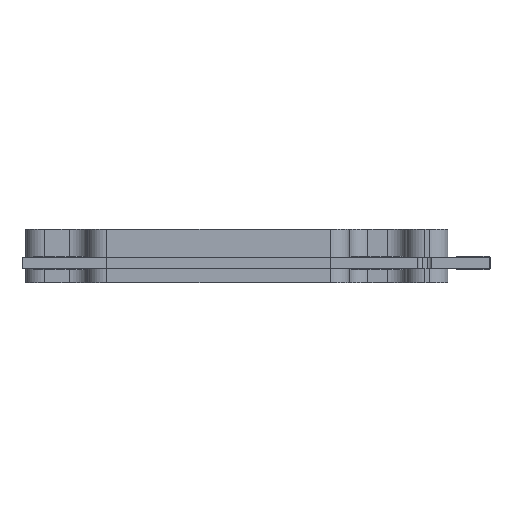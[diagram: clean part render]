
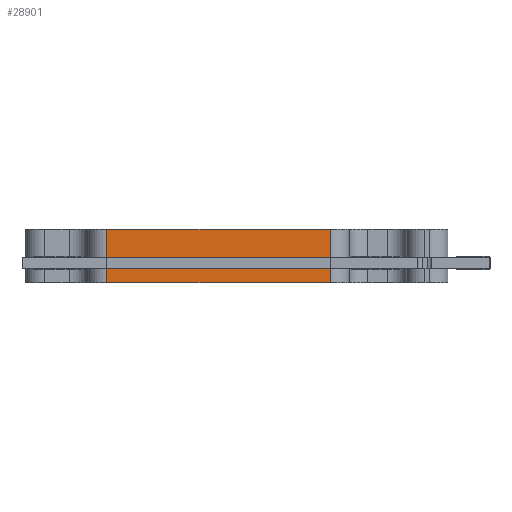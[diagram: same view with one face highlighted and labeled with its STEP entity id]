
A CAD part, left-side view. The second image highlights one B-rep face of the part: STEP entity #28901.
In plain terms, the highlighted planar face has unit normal (-1, 0, 0).
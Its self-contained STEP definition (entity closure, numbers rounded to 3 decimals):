
#28874=AXIS2_PLACEMENT_3D('Plane Axis2P3D',#28871,#28872,#28873) ;
#28849=CARTESIAN_POINT('Vertex',(0.2,40.95,3.)) ;
#28856=CARTESIAN_POINT('Vertex',(0.2,40.95,-2.7)) ;
#28859=CARTESIAN_POINT('Line Origine',(0.2,40.95,0.15)) ;
#28871=CARTESIAN_POINT('Axis2P3D Location',(0.2,42.95,0.)) ;
#28876=CARTESIAN_POINT('Line Origine',(0.2,29.,3.)) ;
#28880=CARTESIAN_POINT('Vertex',(0.2,17.05,3.)) ;
#28883=CARTESIAN_POINT('Line Origine',(0.2,29.,-2.7)) ;
#28887=CARTESIAN_POINT('Vertex',(0.2,17.05,-2.7)) ;
#28890=CARTESIAN_POINT('Line Origine',(0.2,17.05,0.15)) ;
#28860=DIRECTION('Vector Direction',(0.,0.,1.)) ;
#28872=DIRECTION('Axis2P3D Direction',(-1.,0.,0.)) ;
#28873=DIRECTION('Axis2P3D XDirection',(0.,-1.,0.)) ;
#28877=DIRECTION('Vector Direction',(0.,-1.,0.)) ;
#28884=DIRECTION('Vector Direction',(0.,-1.,0.)) ;
#28891=DIRECTION('Vector Direction',(0.,0.,1.)) ;
#28861=VECTOR('Line Direction',#28860,1.) ;
#28878=VECTOR('Line Direction',#28877,1.) ;
#28885=VECTOR('Line Direction',#28884,1.) ;
#28892=VECTOR('Line Direction',#28891,1.) ;
#28896=ORIENTED_EDGE('',*,*,#28882,.F.) ;
#28897=ORIENTED_EDGE('',*,*,#28863,.F.) ;
#28898=ORIENTED_EDGE('',*,*,#28889,.T.) ;
#28899=ORIENTED_EDGE('',*,*,#28894,.T.) ;
#28901=ADVANCED_FACE('Over-Under-Surface',(#28900),#28875,.T.) ;
#28863=EDGE_CURVE('',#28857,#28850,#28862,.T.) ;
#28882=EDGE_CURVE('',#28850,#28881,#28879,.T.) ;
#28889=EDGE_CURVE('',#28857,#28888,#28886,.T.) ;
#28894=EDGE_CURVE('',#28888,#28881,#28893,.T.) ;
#28895=EDGE_LOOP('',(#28896,#28897,#28898,#28899)) ;
#28900=FACE_OUTER_BOUND('',#28895,.T.) ;
#28862=LINE('Line',#28859,#28861) ;
#28879=LINE('Line',#28876,#28878) ;
#28886=LINE('Line',#28883,#28885) ;
#28893=LINE('Line',#28890,#28892) ;
#28875=PLANE('Plane',#28874) ;
#28850=VERTEX_POINT('',#28849) ;
#28857=VERTEX_POINT('',#28856) ;
#28881=VERTEX_POINT('',#28880) ;
#28888=VERTEX_POINT('',#28887) ;
